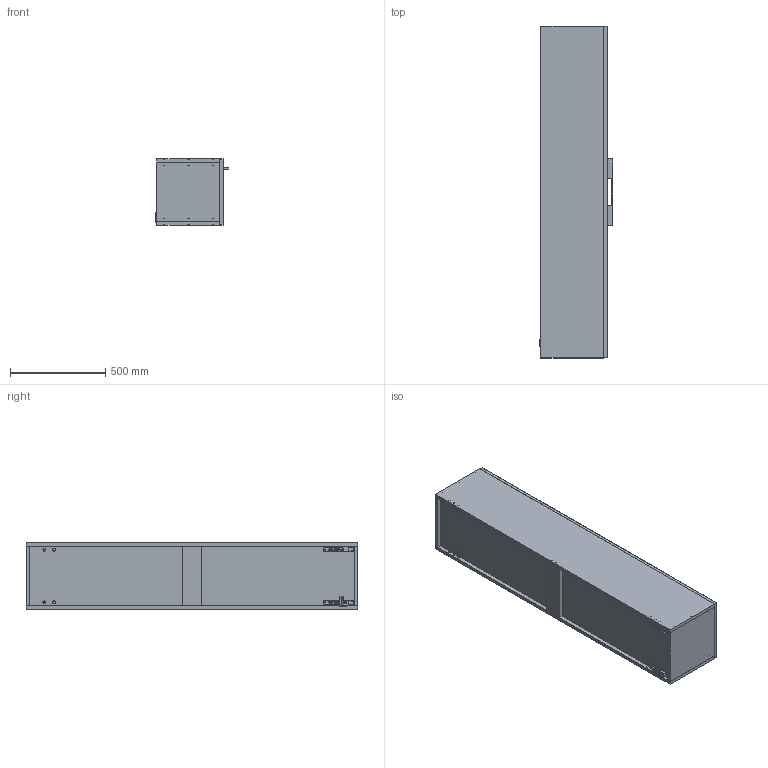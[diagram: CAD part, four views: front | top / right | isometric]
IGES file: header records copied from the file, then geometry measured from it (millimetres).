
Global section: file name: Glow Boy Dolabı 3D,; native system: Autodesk Inventor 2023; preprocessor: unknown; author: pc19; date: 20240516.171029; units: millimetre
Bounding box: 387.16 x 1740 x 350 mm (x, y, z)
Volume: 40560010.7 mm3; surface area: 6429999.8 mm2
Topology: 53 solids, 57 shells, 3105 faces, 8489 edges, 5661 vertices
Faces by surface type: bspline 3105
